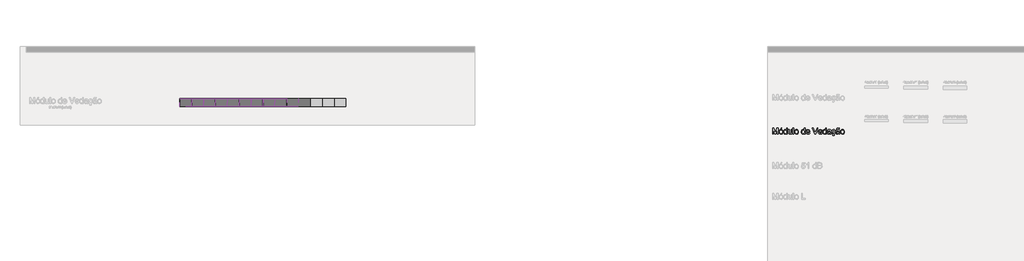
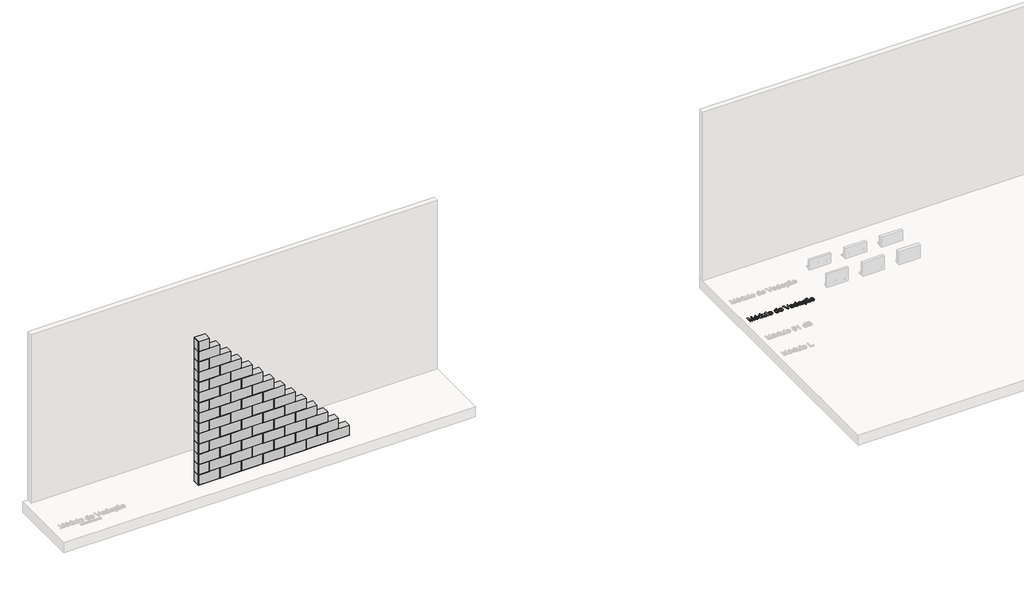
# One storey, part 16 of 26: 57 proxies.
"""IFC4 building model written with IfcOpenShell, lengths in millimetres."""

from ifc_helpers import new_model, si_unit, origin, origin_with_axes, place, context, project, spatial, polyline, outline, extrude, transform, mapped, element, save
from components import generic_models_76759fd5, generic_models_badda9a8, generic_models_a3310955, generic_models_300a5c4d, generic_models_c234e121, generic_models_ab5b7eca

model = new_model("IFC4")

# Units and contexts
model_context = context("Model", 3, world=origin())
ifc_project = project(units=[si_unit("LENGTHUNIT", "METRE", prefix="MILLI")], contexts=[model_context])

# Site, building, storey
site = spatial("IfcSite", under=ifc_project)
building = spatial("IfcBuilding", under=site)
storey = spatial("IfcBuildingStorey", under=building, Name="Catálogo Celucon", Elevation=0.0)

# Proxies
placement = place(None, origin())
element("IfcBuildingElementProxy", 1, Name="Legenda Tabela de Módulos", ObjectType="Legenda Tabela de Módulos", at=placement, inside=storey, context=model_context, shape_type="SweptSolid", body=[
    extrude(outline(polyline([(-16139.397214, 125.3239878), (-16139.397214, 276.0084531), (-16106.9868102, 276.0084531), (-16076.158299, 169.800921), (-16069.9410933, 147.6176367), (-16063.2088528, 171.640331), (-16032.8953764, 276.0084531), (-16000.4849726, 276.0084531), (-16000.4849726, 125.3239878), (-16019.3205308, 125.3239878), (-16019.3205308, 257.1728949), (-16057.1755881, 125.3239878), (-16082.7065985, 125.3239878), (-16120.5616558, 257.1728949), (-16120.5616558, 125.3239878), (-16139.397214, 125.3239878)])), origin_with_axes(), (0.0, 0.0, 1.0), 20.0),
    extrude(outline(polyline([(-15974.5860802, 180.6534399), (-15970.5117871, 207.3340816), (-15958.2889078, 226.0868663), (-15943.1873519, 235.2747191), (-15925.1059518, 238.3373367), (-15905.318499, 234.607933), (-15889.5133688, 223.4197218), (-15879.1528921, 205.65562), (-15875.6993999, 182.1985443), (-15877.2261101, 163.1698481), (-15881.806241, 148.6844945), (-15889.3064352, 137.8365742), (-15899.5933354, 129.7201777), (-15911.8116162, 124.6572017), (-15925.1059518, 122.9695431), (-15945.1325279, 126.6851512), (-15960.919264, 137.8319757), (-15971.1693761, 155.968558), (-15974.5860802, 180.6534399)]), holes=[polyline([(-15955.750522, 180.6902281), (-15953.5708212, 163.6434962), (-15947.0317187, 151.4987918), (-15937.1908754, 144.2285239), (-15925.1059518, 141.8051012), (-15913.0762106, 144.2423194), (-15903.2537613, 151.5539741), (-15896.7146588, 163.8596268), (-15894.534958, 181.2788393), (-15896.7284544, 197.8289306), (-15903.3089436, 209.808088), (-15913.1451884, 217.078356), (-15925.1059518, 219.5017786), (-15937.1908754, 217.087553), (-15947.0317187, 209.8448762), (-15953.5708212, 197.727763), (-15955.750522, 180.6902281)])]), origin_with_axes(), (0.0, 0.0, 1.0), 20.0),
    extrude(outline(polyline([(-15939.2694086, 247.7551158), (-15925.14274, 276.0084531), (-15901.5982923, 276.0084531), (-15925.14274, 247.7551158), (-15939.2694086, 247.7551158)])), origin_with_axes(), (0.0, 0.0, 1.0), 20.0),
    extrude(outline(polyline([(-15786.2304986, 125.3239878), (-15786.2304986, 143.0926882), (-15798.6925012, 128.0003293), (-15815.9185756, 122.9695431), (-15828.0954697, 124.7905589), (-15839.2422941, 130.2536066), (-15848.6784673, 138.9770084), (-15855.7234075, 150.5790868), (-15860.1104003, 164.5907923), (-15861.5727312, 180.5430753), (-15856.18326, 210.5254579), (-15849.4510195, 222.4172434), (-15840.0332404, 231.1636378), (-15828.6426942, 236.543912), (-15815.992152, 238.3373367), (-15798.6281219, 233.2053829), (-15786.2304986, 219.8696606), (-15786.2304986, 276.0084531), (-15767.3949405, 276.0084531), (-15767.3949405, 125.3239878), (-15786.2304986, 125.3239878)]), holes=[polyline([(-15842.7371731, 180.6166517), (-15840.6126546, 163.5791168), (-15834.239099, 151.4620036), (-15824.9776698, 144.2193268), (-15814.1895303, 141.8051012), (-15803.4059893, 144.1089622), (-15794.3790848, 151.0205452), (-15788.2676452, 162.6686089), (-15786.2304986, 179.1819119), (-15788.3044334, 197.2357208), (-15794.5262376, 209.7529057), (-15803.7830683, 217.0645604), (-15814.9620825, 219.5017786), (-15825.8605866, 217.1611294), (-15834.790922, 210.1391818), (-15840.7506103, 198.0772509), (-15842.7371731, 180.6166517)])]), origin_with_axes(), (0.0, 0.0, 1.0), 20.0),
    extrude(outline(polyline([(-15668.5082602, 125.3239878), (-15668.5082602, 144.343487), (-15683.2603282, 128.313029), (-15702.5005565, 122.9695431), (-15720.2140746, 126.7219394), (-15732.4277568, 136.1397185), (-15738.0379573, 150.0088697), (-15739.1416032, 167.5200527), (-15739.1416032, 235.982892), (-15720.3060451, 235.982892), (-15720.3060451, 176.3860088), (-15719.1656109, 157.1825686), (-15711.7160005, 145.9069855), (-15697.6813024, 141.8051012), (-15681.9543471, 145.998956), (-15671.5616807, 157.4216919), (-15668.5082602, 178.4093597), (-15668.5082602, 235.982892), (-15649.672702, 235.982892), (-15649.672702, 125.3239878), (-15668.5082602, 125.3239878)])), origin_with_axes(), (0.0, 0.0, 1.0), 20.0),
    extrude(outline(polyline([(-15623.7738096, 125.3239878), (-15623.7738096, 276.0084531), (-15604.9382514, 276.0084531), (-15604.9382514, 125.3239878), (-15623.7738096, 125.3239878)])), origin_with_axes(), (0.0, 0.0, 1.0), 20.0),
    extrude(outline(polyline([(-15581.3938037, 180.6534399), (-15577.3195106, 207.3340816), (-15565.0966313, 226.0868663), (-15549.9950754, 235.2747191), (-15531.9136754, 238.3373367), (-15512.1262226, 234.607933), (-15496.3210923, 223.4197218), (-15485.9606156, 205.65562), (-15482.5071234, 182.1985443), (-15484.0338337, 163.1698481), (-15488.6139645, 148.6844945), (-15496.1141587, 137.8365742), (-15506.401059, 129.7201777), (-15518.6193398, 124.6572017), (-15531.9136754, 122.9695431), (-15551.9402515, 126.6851512), (-15567.7269876, 137.8319757), (-15577.9770997, 155.968558), (-15581.3938037, 180.6534399)]), holes=[polyline([(-15562.5582456, 180.6902281), (-15560.3785447, 163.6434962), (-15553.8394423, 151.4987918), (-15543.9985989, 144.2285239), (-15531.9136754, 141.8051012), (-15519.8839341, 144.2423194), (-15510.0614849, 151.5539741), (-15503.5223824, 163.8596268), (-15501.3426816, 181.2788393), (-15503.536178, 197.8289306), (-15510.1166672, 209.808088), (-15519.952912, 217.078356), (-15531.9136754, 219.5017786), (-15543.9985989, 217.087553), (-15553.8394423, 209.8448762), (-15560.3785447, 197.727763), (-15562.5582456, 180.6902281)])]), origin_with_axes(), (0.0, 0.0, 1.0), 20.0),
    extrude(outline(polyline([(-15334.177103, 125.3239878), (-15334.177103, 143.0926882), (-15346.6391055, 128.0003293), (-15363.86518, 122.9695431), (-15376.042074, 124.7905589), (-15387.1888985, 130.2536066), (-15396.6250716, 138.9770084), (-15403.6700118, 150.5790868), (-15408.0570046, 164.5907923), (-15409.5193356, 180.5430753), (-15404.1298643, 210.5254579), (-15397.3976238, 222.4172434), (-15387.9798448, 231.1636378), (-15376.5892985, 236.543912), (-15363.9387564, 238.3373367), (-15346.5747262, 233.2053829), (-15334.177103, 219.8696606), (-15334.177103, 276.0084531), (-15315.3415448, 276.0084531), (-15315.3415448, 125.3239878), (-15334.177103, 125.3239878)]), holes=[polyline([(-15390.6837774, 180.6166517), (-15388.5592589, 163.5791168), (-15382.1857033, 151.4620036), (-15372.9242741, 144.2193268), (-15362.1361346, 141.8051012), (-15351.3525936, 144.1089622), (-15342.3256892, 151.0205452), (-15336.2142495, 162.6686089), (-15334.177103, 179.1819119), (-15336.2510377, 197.2357208), (-15342.472842, 209.7529057), (-15351.7296727, 217.0645604), (-15362.9086868, 219.5017786), (-15373.8071909, 217.1611294), (-15382.7375263, 210.1391818), (-15388.6972146, 198.0772509), (-15390.6837774, 180.6166517)])]), origin_with_axes(), (0.0, 0.0, 1.0), 20.0),
    extrude(outline(polyline([(-15209.6122594, 158.2862146), (-15191.1445832, 155.9317698), (-15197.7986488, 142.0166334), (-15208.4166429, 131.6147699), (-15222.7594422, 125.1308498), (-15240.5879234, 122.9695431), (-15262.6884342, 126.6989468), (-15279.6937795, 137.887158), (-15290.5371013, 155.8076097), (-15294.1515419, 179.7337349), (-15290.5003131, 204.464602), (-15279.5466267, 222.9598693), (-15262.7712077, 234.4929699), (-15241.6547812, 238.3373367), (-15221.1959437, 234.5021669), (-15204.8481876, 222.9966575), (-15194.1290259, 204.5381784), (-15190.555972, 179.8440995), (-15190.6663366, 174.767328), (-15275.3159837, 174.767328), (-15272.0556295, 160.6682505), (-15264.481859, 150.3031753), (-15253.5511652, 143.9296197), (-15240.2200414, 141.8051012), (-15221.7523652, 145.7414386), (-15209.6122594, 158.2862146)]), holes=[polyline([(-15275.3159837, 193.6028861), (-15209.3915302, 193.6028861), (-15211.939113, 203.5540941), (-15216.9331111, 210.6726107), (-15227.9143887, 217.2944866), (-15241.7283576, 219.5017786), (-15254.4248849, 217.7405435), (-15264.9233174, 212.4568384), (-15272.2211764, 204.2208802), (-15275.3159837, 193.6028861)])]), origin_with_axes(), (0.0, 0.0, 1.0), 20.0),
    extrude(outline(polyline([(-15065.9911285, 125.3239878), (-15125.9558937, 276.0084531), (-15105.7959604, 276.0084531), (-15065.6600347, 167.4464763), (-15057.5298426, 142.9823236), (-15049.5100151, 167.4464763), (-15009.2637248, 276.0084531), (-14989.1037915, 276.0084531), (-15046.5301709, 125.3239878), (-15065.9911285, 125.3239878)])), origin_with_axes(), (0.0, 0.0, 1.0), 20.0),
    extrude(outline(polyline([(-14896.4711051, 158.2862146), (-14878.0034289, 155.9317698), (-14884.6574945, 142.0166334), (-14895.2754886, 131.6147699), (-14909.6182879, 125.1308498), (-14927.4467691, 122.9695431), (-14949.54728, 126.6989468), (-14966.5526252, 137.887158), (-14977.395947, 155.8076097), (-14981.0103876, 179.7337349), (-14977.3591588, 204.464602), (-14966.4054724, 222.9598693), (-14949.6300534, 234.4929699), (-14928.5136269, 238.3373367), (-14908.0547894, 234.5021669), (-14891.7070333, 222.9966575), (-14880.9878716, 204.5381784), (-14877.4148177, 179.8440995), (-14877.5251823, 174.767328), (-14962.1748294, 174.767328), (-14958.9144753, 160.6682505), (-14951.3407047, 150.3031753), (-14940.4100109, 143.9296197), (-14927.0788871, 141.8051012), (-14908.6112109, 145.7414386), (-14896.4711051, 158.2862146)]), holes=[polyline([(-14962.1748294, 193.6028861), (-14896.2503759, 193.6028861), (-14898.7979587, 203.5540941), (-14903.7919568, 210.6726107), (-14914.7732344, 217.2944866), (-14928.5872033, 219.5017786), (-14941.2837306, 217.7405435), (-14951.7821631, 212.4568384), (-14959.0800222, 204.2208802), (-14962.1748294, 193.6028861)])]), origin_with_axes(), (0.0, 0.0, 1.0), 20.0),
    extrude(outline(polyline([(-14790.3003613, 125.3239878), (-14790.3003613, 143.0926882), (-14802.7623639, 128.0003293), (-14819.9884383, 122.9695431), (-14832.1653323, 124.7905589), (-14843.3121568, 130.2536066), (-14852.74833, 138.9770084), (-14859.7932702, 150.5790868), (-14864.180263, 164.5907923), (-14865.6425939, 180.5430753), (-14860.2531227, 210.5254579), (-14853.5208822, 222.4172434), (-14844.1031031, 231.1636378), (-14832.7125568, 236.543912), (-14820.0620147, 238.3373367), (-14802.6979845, 233.2053829), (-14790.3003613, 219.8696606), (-14790.3003613, 276.0084531), (-14771.4648031, 276.0084531), (-14771.4648031, 125.3239878), (-14790.3003613, 125.3239878)]), holes=[polyline([(-14846.8070357, 180.6166517), (-14844.6825172, 163.5791168), (-14838.3089617, 151.4620036), (-14829.0475324, 144.2193268), (-14818.2593929, 141.8051012), (-14807.4758519, 144.1089622), (-14798.4489475, 151.0205452), (-14792.3375078, 162.6686089), (-14790.3003613, 179.1819119), (-14792.374296, 197.2357208), (-14798.5961003, 209.7529057), (-14807.852931, 217.0645604), (-14819.0319451, 219.5017786), (-14829.9304492, 217.1611294), (-14838.8607847, 210.1391818), (-14844.820473, 198.0772509), (-14846.8070357, 180.6166517)])]), origin_with_axes(), (0.0, 0.0, 1.0), 20.0),
    extrude(outline(polyline([(-14672.5781228, 139.4506564), (-14690.8434639, 126.6851512), (-14711.0217913, 122.9695431), (-14726.7625422, 125.2044262), (-14738.3738177, 131.9090755), (-14745.533721, 142.0902098), (-14747.9203554, 154.7545474), (-14744.3151119, 169.6537682), (-14734.8421505, 180.4694989), (-14721.653581, 186.6499164), (-14705.3564086, 189.4826078), (-14672.6884874, 195.9573309), (-14672.5781228, 200.1511856), (-14673.8749069, 208.5572892), (-14677.765259, 214.0571251), (-14686.4656682, 218.1406152), (-14698.5873799, 219.5017786), (-14717.6436672, 215.8781409), (-14726.7303525, 203.0206652), (-14745.5659107, 205.37511), (-14737.4173245, 223.7692097), (-14721.0097875, 234.5481522), (-14696.1593587, 238.3373367), (-14673.3322809, 234.9896106), (-14660.438017, 226.583507), (-14654.6622697, 213.7996077), (-14653.7425647, 197.3184943), (-14653.7425647, 173.8844112), (-14652.7860715, 141.1613077), (-14649.0336751, 125.3239878), (-14667.8692333, 125.3239878), (-14672.5781228, 139.4506564)]), holes=[polyline([(-14672.5781228, 177.1217728), (-14702.9651756, 171.3460254), (-14719.1703775, 168.2926049), (-14726.5096233, 163.3261979), (-14729.0847973, 156.0789226), (-14723.4745969, 145.8885914), (-14707.0118776, 141.8051012), (-14687.9555902, 146.3116557), (-14675.6683316, 157.2193568), (-14672.6884874, 171.7874838), (-14672.5781228, 177.1217728)])]), origin_with_axes(), (0.0, 0.0, 1.0), 20.0),
    extrude(outline(polyline([(-14557.2103291, 165.3495489), (-14538.374771, 162.9951041), (-14543.6262865, 146.2426778), (-14553.494721, 133.5829386), (-14567.0511725, 125.622892), (-14583.8583326, 123.06037), (-14586.493736, 115.0968684), (-14571.7600621, 110.0936732), (-14566.6281082, 101.0805643), (-14568.4859123, 94.3299297), (-14574.0593245, 88.4254237), (-14583.3851331, 84.3143424), (-14596.5001262, 82.943982), (-14611.3625588, 82.943982), (-14611.3625588, 94.7162058), (-14600.9514984, 94.7162058), (-14586.309795, 96.8867096), (-14583.1092216, 100.9334115), (-14584.3968086, 103.600556), (-14589.1608804, 105.5871188), (-14600.1789462, 106.4884297), (-14594.9421317, 125.1082144), (-14603.4025122, 126.6713556), (-14619.0696866, 137.7767934), (-14629.181843, 155.7984126), (-14632.5525618, 180.2487697), (-14631.1132235, 197.0103931), (-14626.7952085, 211.5371334), (-14619.5295391, 223.2679705), (-14609.2472374, 231.6418844), (-14596.9461831, 236.6634737), (-14583.6242564, 238.3373367), (-14567.7087616, 236.0380743), (-14554.9846431, 229.1402869), (-14545.8565711, 218.0118565), (-14540.7292158, 203.0206652), (-14559.5647739, 200.6662204), (-14568.3019713, 214.774495), (-14583.4771036, 219.5017786), (-14595.6493991, 217.174925), (-14605.3109, 210.1943641), (-14611.6154777, 198.183017), (-14613.7170036, 180.7638045), (-14611.661463, 163.1100673), (-14605.494841, 151.0573334), (-14596.0080841, 144.1181593), (-14583.9921384, 141.8051012), (-14574.238667, 143.249038), (-14566.2418321, 147.5808485), (-14560.4246981, 154.9108973), (-14557.2103291, 165.3495489)])), origin_with_axes(), (0.0, 0.0, 1.0), 20.0),
    extrude(outline(polyline([(-14451.2603145, 139.4506564), (-14469.5256556, 126.6851512), (-14489.703983, 122.9695431), (-14505.4447339, 125.2044262), (-14517.0560094, 131.9090755), (-14524.2159127, 142.0902098), (-14526.6025471, 154.7545474), (-14522.9973036, 169.6537682), (-14513.5243422, 180.4694989), (-14500.3357727, 186.6499164), (-14484.0386003, 189.4826078), (-14451.3706791, 195.9573309), (-14451.2603145, 200.1511856), (-14452.5570986, 208.5572892), (-14456.4474507, 214.0571251), (-14465.1478599, 218.1406152), (-14477.2695716, 219.5017786), (-14496.3258589, 215.8781409), (-14505.4125442, 203.0206652), (-14524.2481024, 205.37511), (-14516.0995162, 223.7692097), (-14499.6919792, 234.5481522), (-14474.8415504, 238.3373367), (-14452.0144726, 234.9896106), (-14439.1202087, 226.583507), (-14433.3444614, 213.7996077), (-14432.4247564, 197.3184943), (-14432.4247564, 173.8844112), (-14431.4682632, 141.1613077), (-14427.7158668, 125.3239878), (-14446.551425, 125.3239878), (-14451.2603145, 139.4506564)]), holes=[polyline([(-14451.2603145, 177.1217728), (-14481.6473673, 171.3460254), (-14497.8525692, 168.2926049), (-14505.191815, 163.3261979), (-14507.766989, 156.0789226), (-14502.1567886, 145.8885914), (-14485.6940693, 141.8051012), (-14466.6377819, 146.3116557), (-14454.3505233, 157.2193568), (-14451.3706791, 171.7874838), (-14451.2603145, 177.1217728)])]), origin_with_axes(), (0.0, 0.0, 1.0), 20.0),
    extrude(outline(polyline([(-14510.1214338, 247.7551158), (-14508.695891, 259.3342016), (-14504.27211, 268.3197194), (-14497.6042489, 274.0862696), (-14489.2993128, 276.0084531), (-14474.216151, 269.9384001), (-14466.6009937, 266.590674), (-14462.6094741, 268.4852663), (-14460.6780936, 276.0084531), (-14444.1969802, 276.0084531), (-14445.8386536, 263.647618), (-14450.1750626, 254.8184501), (-14456.6267931, 249.5209494), (-14464.614431, 247.7551158), (-14479.5136518, 253.4940749), (-14487.4599029, 257.1728949), (-14491.9480632, 254.7816619), (-14493.6403204, 247.7551158), (-14510.1214338, 247.7551158)])), origin_with_axes(), (0.0, 0.0, 1.0), 20.0),
    extrude(outline(polyline([(-14411.2347535, 180.6534399), (-14407.1604604, 207.3340816), (-14394.9375811, 226.0868663), (-14379.8360252, 235.2747191), (-14361.7546251, 238.3373367), (-14341.9671723, 234.607933), (-14326.1620421, 223.4197218), (-14315.8015654, 205.65562), (-14312.3480732, 182.1985443), (-14313.8747834, 163.1698481), (-14318.4549143, 148.6844945), (-14325.9551085, 137.8365742), (-14336.2420087, 129.7201777), (-14348.4602895, 124.6572017), (-14361.7546251, 122.9695431), (-14381.7812012, 126.6851512), (-14397.5679373, 137.8319757), (-14407.8180494, 155.968558), (-14411.2347535, 180.6534399)]), holes=[polyline([(-14392.3991953, 180.6902281), (-14390.2194945, 163.6434962), (-14383.680392, 151.4987918), (-14373.8395487, 144.2285239), (-14361.7546251, 141.8051012), (-14349.7248839, 144.2423194), (-14339.9024346, 151.5539741), (-14333.3633321, 163.8596268), (-14331.1836313, 181.2788393), (-14333.3771277, 197.8289306), (-14339.9576169, 209.808088), (-14349.7938617, 217.078356), (-14361.7546251, 219.5017786), (-14373.8395487, 217.087553), (-14383.680392, 209.8448762), (-14390.2194945, 197.727763), (-14392.3991953, 180.6902281)])]), origin_with_axes(), (0.0, 0.0, 1.0), 20.0),
])
generic_models_shape = generic_models_76759fd5(model_context)
element("IfcBuildingElementProxy", 2, Name="Módulo de Vedação de Concreto Celular - Celucon : MVCC 20x30x60cm (L x A x C)", ObjectType="Módulo de Vedação de Concreto Celular - Celucon : MVCC 20x30x60cm (L x A x C)", at=placement, inside=storey, context=model_context, shape_type="MappedRepresentation", body=[
    mapped(generic_models_shape, transform((-30318.9150984, 930.3239878, 5.0), x_axis=(1.0, 0.0, 0.0), y_axis=(0.0, 1.0, 0.0), z_axis=(0.0, 0.0, 1.0))),
])
element("IfcBuildingElementProxy", 3, Name="Módulo de Vedação de Concreto Celular - Celucon : MVCC 20x30x60cm (L x A x C)", ObjectType="Módulo de Vedação de Concreto Celular - Celucon : MVCC 20x30x60cm (L x A x C)", at=placement, inside=storey, context=model_context, shape_type="MappedRepresentation", body=[
    mapped(generic_models_shape, transform((-29713.9150984, 930.3239878, 5.0), x_axis=(1.0, 0.0, 0.0), y_axis=(0.0, 1.0, 0.0), z_axis=(0.0, 0.0, 1.0))),
])
element("IfcBuildingElementProxy", 4, Name="Módulo de Vedação de Concreto Celular - Celucon : MVCC 20x30x60cm (L x A x C)", ObjectType="Módulo de Vedação de Concreto Celular - Celucon : MVCC 20x30x60cm (L x A x C)", at=placement, inside=storey, context=model_context, shape_type="MappedRepresentation", body=[
    mapped(generic_models_shape, transform((-29108.9150984, 930.3239878, 5.0), x_axis=(1.0, 0.0, 0.0), y_axis=(0.0, 1.0, 0.0), z_axis=(0.0, 0.0, 1.0))),
])
element("IfcBuildingElementProxy", 5, Name="Módulo de Vedação de Concreto Celular - Celucon : MVCC 20x30x60cm (L x A x C)", ObjectType="Módulo de Vedação de Concreto Celular - Celucon : MVCC 20x30x60cm (L x A x C)", at=placement, inside=storey, context=model_context, shape_type="MappedRepresentation", body=[
    mapped(generic_models_shape, transform((-28503.9150984, 930.3239878, 5.0), x_axis=(1.0, 0.0, 0.0), y_axis=(0.0, 1.0, 0.0), z_axis=(0.0, 0.0, 1.0))),
])
element("IfcBuildingElementProxy", 6, Name="Módulo de Vedação de Concreto Celular - Celucon : MVCC 20x30x60cm (L x A x C)", ObjectType="Módulo de Vedação de Concreto Celular - Celucon : MVCC 20x30x60cm (L x A x C)", at=placement, inside=storey, context=model_context, shape_type="MappedRepresentation", body=[
    mapped(generic_models_shape, transform((-27898.9150984, 930.3239878, 5.0), x_axis=(1.0, 0.0, 0.0), y_axis=(0.0, 1.0, 0.0), z_axis=(0.0, 0.0, 1.0))),
])
element("IfcBuildingElementProxy", 7, Name="Módulo de Vedação de Concreto Celular - Celucon : MVCC 20x30x60cm (L x A x C)", ObjectType="Módulo de Vedação de Concreto Celular - Celucon : MVCC 20x30x60cm (L x A x C)", at=placement, inside=storey, context=model_context, shape_type="MappedRepresentation", body=[
    mapped(generic_models_shape, transform((-30618.9150984, 930.3239878, 310.0), x_axis=(1.0, 0.0, 0.0), y_axis=(0.0, 1.0, 0.0), z_axis=(0.0, 0.0, 1.0))),
])
element("IfcBuildingElementProxy", 8, Name="Módulo de Vedação de Concreto Celular - Celucon : MVCC 20x30x60cm (L x A x C)", ObjectType="Módulo de Vedação de Concreto Celular - Celucon : MVCC 20x30x60cm (L x A x C)", at=placement, inside=storey, context=model_context, shape_type="MappedRepresentation", body=[
    mapped(generic_models_shape, transform((-30013.9150984, 930.3239878, 310.0), x_axis=(1.0, 0.0, 0.0), y_axis=(0.0, 1.0, 0.0), z_axis=(0.0, 0.0, 1.0))),
])
element("IfcBuildingElementProxy", 9, Name="Módulo de Vedação de Concreto Celular - Celucon : MVCC 20x30x60cm (L x A x C)", ObjectType="Módulo de Vedação de Concreto Celular - Celucon : MVCC 20x30x60cm (L x A x C)", at=placement, inside=storey, context=model_context, shape_type="MappedRepresentation", body=[
    mapped(generic_models_shape, transform((-29408.9150984, 930.3239878, 310.0), x_axis=(1.0, 0.0, 0.0), y_axis=(0.0, 1.0, 0.0), z_axis=(0.0, 0.0, 1.0))),
])
element("IfcBuildingElementProxy", 10, Name="Módulo de Vedação de Concreto Celular - Celucon : MVCC 20x30x60cm (L x A x C)", ObjectType="Módulo de Vedação de Concreto Celular - Celucon : MVCC 20x30x60cm (L x A x C)", at=placement, inside=storey, context=model_context, shape_type="MappedRepresentation", body=[
    mapped(generic_models_shape, transform((-28803.9150984, 930.3239878, 310.0), x_axis=(1.0, 0.0, 0.0), y_axis=(0.0, 1.0, 0.0), z_axis=(0.0, 0.0, 1.0))),
])
element("IfcBuildingElementProxy", 11, Name="Módulo de Vedação de Concreto Celular - Celucon : MVCC 20x30x60cm (L x A x C)", ObjectType="Módulo de Vedação de Concreto Celular - Celucon : MVCC 20x30x60cm (L x A x C)", at=placement, inside=storey, context=model_context, shape_type="MappedRepresentation", body=[
    mapped(generic_models_shape, transform((-28198.9150984, 930.3239878, 310.0), x_axis=(1.0, 0.0, 0.0), y_axis=(0.0, 1.0, 0.0), z_axis=(0.0, 0.0, 1.0))),
])
element("IfcBuildingElementProxy", 12, Name="Módulo de Vedação de Concreto Celular - Celucon : MVCC 20x30x60cm (L x A x C)", ObjectType="Módulo de Vedação de Concreto Celular - Celucon : MVCC 20x30x60cm (L x A x C)", at=placement, inside=storey, context=model_context, shape_type="MappedRepresentation", body=[
    mapped(generic_models_shape, transform((-30318.9150984, 930.3239878, 615.0), x_axis=(1.0, 0.0, 0.0), y_axis=(0.0, 1.0, 0.0), z_axis=(0.0, 0.0, 1.0))),
])
element("IfcBuildingElementProxy", 13, Name="Módulo de Vedação de Concreto Celular - Celucon : MVCC 20x30x60cm (L x A x C)", ObjectType="Módulo de Vedação de Concreto Celular - Celucon : MVCC 20x30x60cm (L x A x C)", at=placement, inside=storey, context=model_context, shape_type="MappedRepresentation", body=[
    mapped(generic_models_shape, transform((-29713.9150984, 930.3239878, 615.0), x_axis=(1.0, 0.0, 0.0), y_axis=(0.0, 1.0, 0.0), z_axis=(0.0, 0.0, 1.0))),
])
element("IfcBuildingElementProxy", 14, Name="Módulo de Vedação de Concreto Celular - Celucon : MVCC 20x30x60cm (L x A x C)", ObjectType="Módulo de Vedação de Concreto Celular - Celucon : MVCC 20x30x60cm (L x A x C)", at=placement, inside=storey, context=model_context, shape_type="MappedRepresentation", body=[
    mapped(generic_models_shape, transform((-29108.9150984, 930.3239878, 615.0), x_axis=(1.0, 0.0, 0.0), y_axis=(0.0, 1.0, 0.0), z_axis=(0.0, 0.0, 1.0))),
])
element("IfcBuildingElementProxy", 15, Name="Módulo de Vedação de Concreto Celular - Celucon : MVCC 20x30x60cm (L x A x C)", ObjectType="Módulo de Vedação de Concreto Celular - Celucon : MVCC 20x30x60cm (L x A x C)", at=placement, inside=storey, context=model_context, shape_type="MappedRepresentation", body=[
    mapped(generic_models_shape, transform((-28503.9150984, 930.3239878, 615.0), x_axis=(1.0, 0.0, 0.0), y_axis=(0.0, 1.0, 0.0), z_axis=(0.0, 0.0, 1.0))),
])
element("IfcBuildingElementProxy", 16, Name="Módulo de Vedação de Concreto Celular - Celucon : MVCC 20x30x60cm (L x A x C)", ObjectType="Módulo de Vedação de Concreto Celular - Celucon : MVCC 20x30x60cm (L x A x C)", at=placement, inside=storey, context=model_context, shape_type="MappedRepresentation", body=[
    mapped(generic_models_shape, transform((-30618.9150984, 930.3239878, 920.0), x_axis=(1.0, 0.0, 0.0), y_axis=(0.0, 1.0, 0.0), z_axis=(0.0, 0.0, 1.0))),
])
element("IfcBuildingElementProxy", 17, Name="Módulo de Vedação de Concreto Celular - Celucon : MVCC 20x30x60cm (L x A x C)", ObjectType="Módulo de Vedação de Concreto Celular - Celucon : MVCC 20x30x60cm (L x A x C)", at=placement, inside=storey, context=model_context, shape_type="MappedRepresentation", body=[
    mapped(generic_models_shape, transform((-30013.9150984, 930.3239878, 920.0), x_axis=(1.0, 0.0, 0.0), y_axis=(0.0, 1.0, 0.0), z_axis=(0.0, 0.0, 1.0))),
])
element("IfcBuildingElementProxy", 18, Name="Módulo de Vedação de Concreto Celular - Celucon : MVCC 20x30x60cm (L x A x C)", ObjectType="Módulo de Vedação de Concreto Celular - Celucon : MVCC 20x30x60cm (L x A x C)", at=placement, inside=storey, context=model_context, shape_type="MappedRepresentation", body=[
    mapped(generic_models_shape, transform((-29408.9150984, 930.3239878, 920.0), x_axis=(1.0, 0.0, 0.0), y_axis=(0.0, 1.0, 0.0), z_axis=(0.0, 0.0, 1.0))),
])
element("IfcBuildingElementProxy", 19, Name="Módulo de Vedação de Concreto Celular - Celucon : MVCC 20x30x60cm (L x A x C)", ObjectType="Módulo de Vedação de Concreto Celular - Celucon : MVCC 20x30x60cm (L x A x C)", at=placement, inside=storey, context=model_context, shape_type="MappedRepresentation", body=[
    mapped(generic_models_shape, transform((-28803.9150984, 930.3239878, 920.0), x_axis=(1.0, 0.0, 0.0), y_axis=(0.0, 1.0, 0.0), z_axis=(0.0, 0.0, 1.0))),
])
element("IfcBuildingElementProxy", 20, Name="Módulo de Vedação de Concreto Celular - Celucon : MVCC 20x30x60cm (L x A x C)", ObjectType="Módulo de Vedação de Concreto Celular - Celucon : MVCC 20x30x60cm (L x A x C)", at=placement, inside=storey, context=model_context, shape_type="MappedRepresentation", body=[
    mapped(generic_models_shape, transform((-30318.9150984, 930.3239878, 1225.0), x_axis=(1.0, 0.0, 0.0), y_axis=(0.0, 1.0, 0.0), z_axis=(0.0, 0.0, 1.0))),
])
element("IfcBuildingElementProxy", 21, Name="Módulo de Vedação de Concreto Celular - Celucon : MVCC 20x30x60cm (L x A x C)", ObjectType="Módulo de Vedação de Concreto Celular - Celucon : MVCC 20x30x60cm (L x A x C)", at=placement, inside=storey, context=model_context, shape_type="MappedRepresentation", body=[
    mapped(generic_models_shape, transform((-29713.9150984, 930.3239878, 1225.0), x_axis=(1.0, 0.0, 0.0), y_axis=(0.0, 1.0, 0.0), z_axis=(0.0, 0.0, 1.0))),
])
element("IfcBuildingElementProxy", 22, Name="Módulo de Vedação de Concreto Celular - Celucon : MVCC 20x30x60cm (L x A x C)", ObjectType="Módulo de Vedação de Concreto Celular - Celucon : MVCC 20x30x60cm (L x A x C)", at=placement, inside=storey, context=model_context, shape_type="MappedRepresentation", body=[
    mapped(generic_models_shape, transform((-29108.9150984, 930.3239878, 1225.0), x_axis=(1.0, 0.0, 0.0), y_axis=(0.0, 1.0, 0.0), z_axis=(0.0, 0.0, 1.0))),
])
element("IfcBuildingElementProxy", 23, Name="Módulo de Vedação de Concreto Celular - Celucon : MVCC 20x30x60cm (L x A x C)", ObjectType="Módulo de Vedação de Concreto Celular - Celucon : MVCC 20x30x60cm (L x A x C)", at=placement, inside=storey, context=model_context, shape_type="MappedRepresentation", body=[
    mapped(generic_models_shape, transform((-30618.9150984, 930.3239878, 1530.0), x_axis=(1.0, 0.0, 0.0), y_axis=(0.0, 1.0, 0.0), z_axis=(0.0, 0.0, 1.0))),
])
element("IfcBuildingElementProxy", 24, Name="Módulo de Vedação de Concreto Celular - Celucon : MVCC 20x30x60cm (L x A x C)", ObjectType="Módulo de Vedação de Concreto Celular - Celucon : MVCC 20x30x60cm (L x A x C)", at=placement, inside=storey, context=model_context, shape_type="MappedRepresentation", body=[
    mapped(generic_models_shape, transform((-30013.9150984, 930.3239878, 1530.0), x_axis=(1.0, 0.0, 0.0), y_axis=(0.0, 1.0, 0.0), z_axis=(0.0, 0.0, 1.0))),
])
element("IfcBuildingElementProxy", 25, Name="Módulo de Vedação de Concreto Celular - Celucon : MVCC 20x30x60cm (L x A x C)", ObjectType="Módulo de Vedação de Concreto Celular - Celucon : MVCC 20x30x60cm (L x A x C)", at=placement, inside=storey, context=model_context, shape_type="MappedRepresentation", body=[
    mapped(generic_models_shape, transform((-29408.9150984, 930.3239878, 1530.0), x_axis=(1.0, 0.0, 0.0), y_axis=(0.0, 1.0, 0.0), z_axis=(0.0, 0.0, 1.0))),
])
element("IfcBuildingElementProxy", 26, Name="Módulo de Vedação de Concreto Celular - Celucon : MVCC 20x30x60cm (L x A x C)", ObjectType="Módulo de Vedação de Concreto Celular - Celucon : MVCC 20x30x60cm (L x A x C)", at=placement, inside=storey, context=model_context, shape_type="MappedRepresentation", body=[
    mapped(generic_models_shape, transform((-30318.9150984, 930.3239878, 1835.0), x_axis=(1.0, 0.0, 0.0), y_axis=(0.0, 1.0, 0.0), z_axis=(0.0, 0.0, 1.0))),
])
element("IfcBuildingElementProxy", 27, Name="Módulo de Vedação de Concreto Celular - Celucon : MVCC 20x30x60cm (L x A x C)", ObjectType="Módulo de Vedação de Concreto Celular - Celucon : MVCC 20x30x60cm (L x A x C)", at=placement, inside=storey, context=model_context, shape_type="MappedRepresentation", body=[
    mapped(generic_models_shape, transform((-29713.9150984, 930.3239878, 1835.0), x_axis=(1.0, 0.0, 0.0), y_axis=(0.0, 1.0, 0.0), z_axis=(0.0, 0.0, 1.0))),
])
element("IfcBuildingElementProxy", 28, Name="Módulo de Vedação de Concreto Celular - Celucon : MVCC 20x30x60cm (L x A x C)", ObjectType="Módulo de Vedação de Concreto Celular - Celucon : MVCC 20x30x60cm (L x A x C)", at=placement, inside=storey, context=model_context, shape_type="MappedRepresentation", body=[
    mapped(generic_models_shape, transform((-30618.9150984, 930.3239878, 2140.0), x_axis=(1.0, 0.0, 0.0), y_axis=(0.0, 1.0, 0.0), z_axis=(0.0, 0.0, 1.0))),
])
element("IfcBuildingElementProxy", 29, Name="Módulo de Vedação de Concreto Celular - Celucon : MVCC 20x30x60cm (L x A x C)", ObjectType="Módulo de Vedação de Concreto Celular - Celucon : MVCC 20x30x60cm (L x A x C)", at=placement, inside=storey, context=model_context, shape_type="MappedRepresentation", body=[
    mapped(generic_models_shape, transform((-30013.9150984, 930.3239878, 2140.0), x_axis=(1.0, 0.0, 0.0), y_axis=(0.0, 1.0, 0.0), z_axis=(0.0, 0.0, 1.0))),
])
element("IfcBuildingElementProxy", 30, Name="Módulo de Vedação de Concreto Celular - Celucon : MVCC 20x30x60cm (L x A x C)", ObjectType="Módulo de Vedação de Concreto Celular - Celucon : MVCC 20x30x60cm (L x A x C)", at=placement, inside=storey, context=model_context, shape_type="MappedRepresentation", body=[
    mapped(generic_models_shape, transform((-30318.9150984, 930.3239878, 2445.0), x_axis=(1.0, 0.0, 0.0), y_axis=(0.0, 1.0, 0.0), z_axis=(0.0, 0.0, 1.0))),
])
element("IfcBuildingElementProxy", 31, Name="Módulo de Vedação de Concreto Celular - Celucon : MVCC 20x30x60cm (L x A x C)", ObjectType="Módulo de Vedação de Concreto Celular - Celucon : MVCC 20x30x60cm (L x A x C)", at=placement, inside=storey, context=model_context, shape_type="MappedRepresentation", body=[
    mapped(generic_models_shape, transform((-30618.9150984, 930.3239878, 2750.0), x_axis=(1.0, 0.0, 0.0), y_axis=(0.0, 1.0, 0.0), z_axis=(0.0, 0.0, 1.0))),
])
generic_models_2_shape = generic_models_badda9a8(model_context)
element("IfcBuildingElementProxy", 32, Name="Módulo de Vedação de Concreto Celular - Celucon : MVCC 20x30x60cm (L x A x C)", ObjectType="Módulo de Vedação de Concreto Celular - Celucon : MVCC 20x30x60cm (L x A x C)", at=placement, inside=storey, context=model_context, shape_type="MappedRepresentation", body=[
    mapped(generic_models_2_shape, transform((-30923.9150984, 930.3239878, 5.0), x_axis=(1.0, 0.0, 0.0), y_axis=(0.0, 1.0, 0.0), z_axis=(0.0, 0.0, 1.0))),
])
element("IfcBuildingElementProxy", 33, Name="Módulo de Vedação de Concreto Celular - Celucon : MVCC 20x30x60cm (L x A x C)", ObjectType="Módulo de Vedação de Concreto Celular - Celucon : MVCC 20x30x60cm (L x A x C)", at=placement, inside=storey, context=model_context, shape_type="MappedRepresentation", body=[
    mapped(generic_models_2_shape, transform((-30923.9150984, 930.3239878, 615.0), x_axis=(1.0, 0.0, 0.0), y_axis=(0.0, 1.0, 0.0), z_axis=(0.0, 0.0, 1.0))),
])
element("IfcBuildingElementProxy", 34, Name="Módulo de Vedação de Concreto Celular - Celucon : MVCC 20x30x60cm (L x A x C)", ObjectType="Módulo de Vedação de Concreto Celular - Celucon : MVCC 20x30x60cm (L x A x C)", at=placement, inside=storey, context=model_context, shape_type="MappedRepresentation", body=[
    mapped(generic_models_2_shape, transform((-30923.9150984, 930.3239878, 1225.0), x_axis=(1.0, 0.0, 0.0), y_axis=(0.0, 1.0, 0.0), z_axis=(0.0, 0.0, 1.0))),
])
element("IfcBuildingElementProxy", 35, Name="Módulo de Vedação de Concreto Celular - Celucon : MVCC 20x30x60cm (L x A x C)", ObjectType="Módulo de Vedação de Concreto Celular - Celucon : MVCC 20x30x60cm (L x A x C)", at=placement, inside=storey, context=model_context, shape_type="MappedRepresentation", body=[
    mapped(generic_models_2_shape, transform((-30923.9150984, 930.3239878, 1835.0), x_axis=(1.0, 0.0, 0.0), y_axis=(0.0, 1.0, 0.0), z_axis=(0.0, 0.0, 1.0))),
])
element("IfcBuildingElementProxy", 36, Name="Módulo de Vedação de Concreto Celular - Celucon : MVCC 20x30x60cm (L x A x C)", ObjectType="Módulo de Vedação de Concreto Celular - Celucon : MVCC 20x30x60cm (L x A x C)", at=placement, inside=storey, context=model_context, shape_type="MappedRepresentation", body=[
    mapped(generic_models_2_shape, transform((-30923.9150984, 930.3239878, 2445.0), x_axis=(1.0, 0.0, 0.0), y_axis=(0.0, 1.0, 0.0), z_axis=(0.0, 0.0, 1.0))),
])
element("IfcBuildingElementProxy", 37, Name="Módulo de Vedação de Concreto Celular - Celucon : MVCC 20x30x60cm (L x A x C)", ObjectType="Módulo de Vedação de Concreto Celular - Celucon : MVCC 20x30x60cm (L x A x C)", at=placement, inside=storey, context=model_context, shape_type="MappedRepresentation", body=[
    mapped(generic_models_2_shape, transform((-30923.9150984, 930.3239878, 3055.0), x_axis=(1.0, 0.0, 0.0), y_axis=(0.0, 1.0, 0.0), z_axis=(0.0, 0.0, 1.0))),
])
generic_models_3_shape = generic_models_a3310955(model_context)
element("IfcBuildingElementProxy", 38, Name="Módulo de Vedação de Concreto Celular - Celucon : MVCC 20x30x60cm (L x A x C) - Metade", ObjectType="Módulo de Vedação de Concreto Celular - Celucon : MVCC 20x30x60cm (L x A x C) - Metade", at=placement, inside=storey, context=model_context, shape_type="MappedRepresentation", body=[
    mapped(generic_models_3_shape, transform((-31073.9150984, 930.3239878, 310.0), x_axis=(1.0, 0.0, 0.0), y_axis=(0.0, 1.0, 0.0), z_axis=(0.0, 0.0, 1.0))),
])
element("IfcBuildingElementProxy", 39, Name="Módulo de Vedação de Concreto Celular - Celucon : MVCC 20x30x60cm (L x A x C) - Metade", ObjectType="Módulo de Vedação de Concreto Celular - Celucon : MVCC 20x30x60cm (L x A x C) - Metade", at=placement, inside=storey, context=model_context, shape_type="MappedRepresentation", body=[
    mapped(generic_models_3_shape, transform((-31073.9150984, 930.3239878, 920.0), x_axis=(1.0, 0.0, 0.0), y_axis=(0.0, 1.0, 0.0), z_axis=(0.0, 0.0, 1.0))),
])
element("IfcBuildingElementProxy", 40, Name="Módulo de Vedação de Concreto Celular - Celucon : MVCC 20x30x60cm (L x A x C) - Metade", ObjectType="Módulo de Vedação de Concreto Celular - Celucon : MVCC 20x30x60cm (L x A x C) - Metade", at=placement, inside=storey, context=model_context, shape_type="MappedRepresentation", body=[
    mapped(generic_models_3_shape, transform((-31073.9150984, 930.3239878, 1530.0), x_axis=(1.0, 0.0, 0.0), y_axis=(0.0, 1.0, 0.0), z_axis=(0.0, 0.0, 1.0))),
])
element("IfcBuildingElementProxy", 41, Name="Módulo de Vedação de Concreto Celular - Celucon : MVCC 20x30x60cm (L x A x C) - Metade", ObjectType="Módulo de Vedação de Concreto Celular - Celucon : MVCC 20x30x60cm (L x A x C) - Metade", at=placement, inside=storey, context=model_context, shape_type="MappedRepresentation", body=[
    mapped(generic_models_3_shape, transform((-31073.9150984, 930.3239878, 2140.0), x_axis=(1.0, 0.0, 0.0), y_axis=(0.0, 1.0, 0.0), z_axis=(0.0, 0.0, 1.0))),
])
element("IfcBuildingElementProxy", 42, Name="Módulo de Vedação de Concreto Celular - Celucon : MVCC 20x30x60cm (L x A x C) - Metade", ObjectType="Módulo de Vedação de Concreto Celular - Celucon : MVCC 20x30x60cm (L x A x C) - Metade", at=placement, inside=storey, context=model_context, shape_type="MappedRepresentation", body=[
    mapped(generic_models_3_shape, transform((-31073.9150984, 930.3239878, 2750.0), x_axis=(1.0, 0.0, 0.0), y_axis=(0.0, 1.0, 0.0), z_axis=(0.0, 0.0, 1.0))),
])
element("IfcBuildingElementProxy", 43, Name="Módulo de Vedação de Concreto Celular - Celucon : MVCC 20x30x60cm (L x A x C) - Metade", ObjectType="Módulo de Vedação de Concreto Celular - Celucon : MVCC 20x30x60cm (L x A x C) - Metade", at=placement, inside=storey, context=model_context, shape_type="MappedRepresentation", body=[
    mapped(generic_models_3_shape, transform((-31073.9150984, 930.3239878, 3360.0), x_axis=(1.0, 0.0, 0.0), y_axis=(0.0, 1.0, 0.0), z_axis=(0.0, 0.0, 1.0))),
])
generic_models_4_shape = generic_models_300a5c4d(model_context)
element("IfcBuildingElementProxy", 44, Name="Módulo de Vedação de Concreto Celular - Celucon : MVCC 20x30x60cm (L x A x C)", ObjectType="Módulo de Vedação de Concreto Celular - Celucon : MVCC 20x30x60cm (L x A x C)", at=placement, inside=storey, context=model_context, shape_type="MappedRepresentation", body=[
    mapped(generic_models_4_shape, transform((-30923.9150984, 930.3239878, 3665.0), x_axis=(1.0, 0.0, 0.0), y_axis=(0.0, 1.0, 0.0), z_axis=(0.0, 0.0, 1.0))),
])
generic_models_5_shape = generic_models_c234e121(model_context)
element("IfcBuildingElementProxy", 45, Name="Módulo de Vedação de Concreto Celular - Celucon : MVCC 20x30x60cm (L x A x C) - Metade", ObjectType="Módulo de Vedação de Concreto Celular - Celucon : MVCC 20x30x60cm (L x A x C) - Metade", at=placement, inside=storey, context=model_context, shape_type="MappedRepresentation", body=[
    mapped(generic_models_5_shape, transform((-31073.9150984, 930.3239878, 3970.0), x_axis=(1.0, 0.0, 0.0), y_axis=(0.0, 1.0, 0.0), z_axis=(0.0, 0.0, 1.0))),
])
generic_models_6_shape = generic_models_ab5b7eca(model_context)
element("IfcBuildingElementProxy", 46, Name="Módulo de Vedação de Concreto Celular - Celucon : MVCC 20x30x60cm (L x A x C)", ObjectType="Módulo de Vedação de Concreto Celular - Celucon : MVCC 20x30x60cm (L x A x C)", at=placement, inside=storey, context=model_context, shape_type="MappedRepresentation", body=[
    mapped(generic_models_6_shape, transform((-27293.9150984, 930.3239878, 5.0), x_axis=(1.0, 0.0, 0.0), y_axis=(0.0, 1.0, 0.0), z_axis=(0.0, 0.0, 1.0))),
])
element("IfcBuildingElementProxy", 47, Name="Módulo de Vedação de Concreto Celular - Celucon : MVCC 20x30x60cm (L x A x C)", ObjectType="Módulo de Vedação de Concreto Celular - Celucon : MVCC 20x30x60cm (L x A x C)", at=placement, inside=storey, context=model_context, shape_type="MappedRepresentation", body=[
    mapped(generic_models_6_shape, transform((-27593.9150984, 930.3239878, 310.0), x_axis=(1.0, 0.0, 0.0), y_axis=(0.0, 1.0, 0.0), z_axis=(0.0, 0.0, 1.0))),
])
element("IfcBuildingElementProxy", 48, Name="Módulo de Vedação de Concreto Celular - Celucon : MVCC 20x30x60cm (L x A x C)", ObjectType="Módulo de Vedação de Concreto Celular - Celucon : MVCC 20x30x60cm (L x A x C)", at=placement, inside=storey, context=model_context, shape_type="MappedRepresentation", body=[
    mapped(generic_models_6_shape, transform((-27898.9150984, 930.3239878, 615.0), x_axis=(1.0, 0.0, 0.0), y_axis=(0.0, 1.0, 0.0), z_axis=(0.0, 0.0, 1.0))),
])
element("IfcBuildingElementProxy", 49, Name="Módulo de Vedação de Concreto Celular - Celucon : MVCC 20x30x60cm (L x A x C)", ObjectType="Módulo de Vedação de Concreto Celular - Celucon : MVCC 20x30x60cm (L x A x C)", at=placement, inside=storey, context=model_context, shape_type="MappedRepresentation", body=[
    mapped(generic_models_6_shape, transform((-28198.9150984, 930.3239878, 920.0), x_axis=(1.0, 0.0, 0.0), y_axis=(0.0, 1.0, 0.0), z_axis=(0.0, 0.0, 1.0))),
])
element("IfcBuildingElementProxy", 50, Name="Módulo de Vedação de Concreto Celular - Celucon : MVCC 20x30x60cm (L x A x C)", ObjectType="Módulo de Vedação de Concreto Celular - Celucon : MVCC 20x30x60cm (L x A x C)", at=placement, inside=storey, context=model_context, shape_type="MappedRepresentation", body=[
    mapped(generic_models_6_shape, transform((-28503.9150984, 930.3239878, 1225.0), x_axis=(1.0, 0.0, 0.0), y_axis=(0.0, 1.0, 0.0), z_axis=(0.0, 0.0, 1.0))),
])
element("IfcBuildingElementProxy", 51, Name="Módulo de Vedação de Concreto Celular - Celucon : MVCC 20x30x60cm (L x A x C)", ObjectType="Módulo de Vedação de Concreto Celular - Celucon : MVCC 20x30x60cm (L x A x C)", at=placement, inside=storey, context=model_context, shape_type="MappedRepresentation", body=[
    mapped(generic_models_6_shape, transform((-28803.9150984, 930.3239878, 1530.0), x_axis=(1.0, 0.0, 0.0), y_axis=(0.0, 1.0, 0.0), z_axis=(0.0, 0.0, 1.0))),
])
element("IfcBuildingElementProxy", 52, Name="Módulo de Vedação de Concreto Celular - Celucon : MVCC 20x30x60cm (L x A x C)", ObjectType="Módulo de Vedação de Concreto Celular - Celucon : MVCC 20x30x60cm (L x A x C)", at=placement, inside=storey, context=model_context, shape_type="MappedRepresentation", body=[
    mapped(generic_models_6_shape, transform((-29108.9150984, 930.3239878, 1835.0), x_axis=(1.0, 0.0, 0.0), y_axis=(0.0, 1.0, 0.0), z_axis=(0.0, 0.0, 1.0))),
])
element("IfcBuildingElementProxy", 53, Name="Módulo de Vedação de Concreto Celular - Celucon : MVCC 20x30x60cm (L x A x C)", ObjectType="Módulo de Vedação de Concreto Celular - Celucon : MVCC 20x30x60cm (L x A x C)", at=placement, inside=storey, context=model_context, shape_type="MappedRepresentation", body=[
    mapped(generic_models_6_shape, transform((-29408.9150984, 930.3239878, 2140.0), x_axis=(1.0, 0.0, 0.0), y_axis=(0.0, 1.0, 0.0), z_axis=(0.0, 0.0, 1.0))),
])
element("IfcBuildingElementProxy", 54, Name="Módulo de Vedação de Concreto Celular - Celucon : MVCC 20x30x60cm (L x A x C)", ObjectType="Módulo de Vedação de Concreto Celular - Celucon : MVCC 20x30x60cm (L x A x C)", at=placement, inside=storey, context=model_context, shape_type="MappedRepresentation", body=[
    mapped(generic_models_6_shape, transform((-29713.9150984, 930.3239878, 2445.0), x_axis=(1.0, 0.0, 0.0), y_axis=(0.0, 1.0, 0.0), z_axis=(0.0, 0.0, 1.0))),
])
element("IfcBuildingElementProxy", 55, Name="Módulo de Vedação de Concreto Celular - Celucon : MVCC 20x30x60cm (L x A x C)", ObjectType="Módulo de Vedação de Concreto Celular - Celucon : MVCC 20x30x60cm (L x A x C)", at=placement, inside=storey, context=model_context, shape_type="MappedRepresentation", body=[
    mapped(generic_models_6_shape, transform((-30013.9150984, 930.3239878, 2750.0), x_axis=(1.0, 0.0, 0.0), y_axis=(0.0, 1.0, 0.0), z_axis=(0.0, 0.0, 1.0))),
])
element("IfcBuildingElementProxy", 56, Name="Módulo de Vedação de Concreto Celular - Celucon : MVCC 20x30x60cm (L x A x C)", ObjectType="Módulo de Vedação de Concreto Celular - Celucon : MVCC 20x30x60cm (L x A x C)", at=placement, inside=storey, context=model_context, shape_type="MappedRepresentation", body=[
    mapped(generic_models_6_shape, transform((-30318.9150984, 930.3239878, 3055.0), x_axis=(1.0, 0.0, 0.0), y_axis=(0.0, 1.0, 0.0), z_axis=(0.0, 0.0, 1.0))),
])
element("IfcBuildingElementProxy", 57, Name="Módulo de Vedação de Concreto Celular - Celucon : MVCC 20x30x60cm (L x A x C)", ObjectType="Módulo de Vedação de Concreto Celular - Celucon : MVCC 20x30x60cm (L x A x C)", at=placement, inside=storey, context=model_context, shape_type="MappedRepresentation", body=[
    mapped(generic_models_6_shape, transform((-30618.9150984, 930.3239878, 3360.0), x_axis=(1.0, 0.0, 0.0), y_axis=(0.0, 1.0, 0.0), z_axis=(0.0, 0.0, 1.0))),
])

save(model, "model.ifc")
